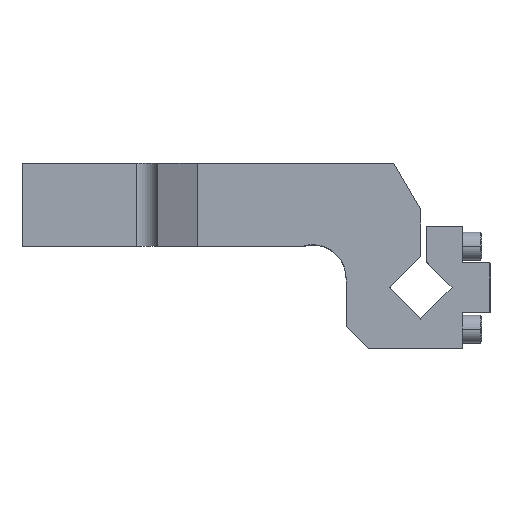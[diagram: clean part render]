
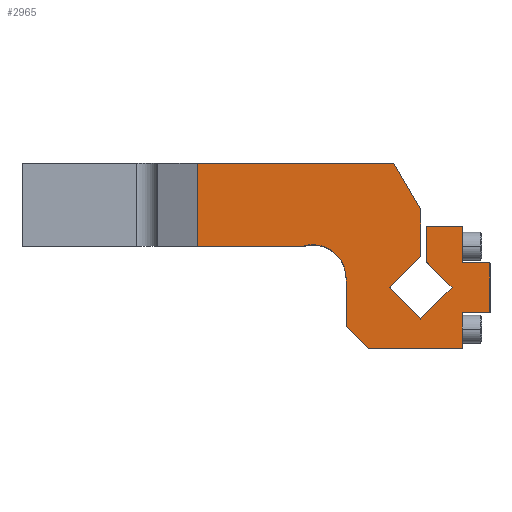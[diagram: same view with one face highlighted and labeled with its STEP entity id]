
A CAD part, top view. The second image highlights one B-rep face of the part: STEP entity #2965.
In plain terms, the highlighted planar face has unit normal (0, 0, 1).
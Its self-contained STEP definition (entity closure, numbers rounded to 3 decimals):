
#975=CARTESIAN_POINT('',(14.134,-17.729,2.0));
#976=VERTEX_POINT('',#975);
#983=CARTESIAN_POINT('',(14.134,-17.708,2.));
#984=VERTEX_POINT('',#983);
#985=CARTESIAN_POINT('',(14.134,-17.729,2.0));
#986=DIRECTION('',(0.0,1.0,0.));
#987=VECTOR('',#986,0.021);
#988=LINE('',#985,#987);
#989=EDGE_CURVE('',#976,#984,#988,.T.);
#1537=CARTESIAN_POINT('',(16.134,15.585,2.));
#1538=VERTEX_POINT('',#1537);
#1539=CARTESIAN_POINT('',(16.134,2.878,2.));
#1540=VERTEX_POINT('',#1539);
#1541=CARTESIAN_POINT('',(16.134,15.585,2.));
#1542=DIRECTION('',(0.0,-1.0,0.0));
#1543=VECTOR('',#1542,12.707);
#1544=LINE('',#1541,#1543);
#1545=EDGE_CURVE('',#1538,#1540,#1544,.T.);
#1596=CARTESIAN_POINT('',(25.427,-6.415,2.));
#1597=VERTEX_POINT('',#1596);
#1604=CARTESIAN_POINT('',(25.427,-6.415,2.));
#1605=DIRECTION('',(-0.707,0.707,0.0));
#1606=VECTOR('',#1605,13.142);
#1607=LINE('',#1604,#1606);
#1608=EDGE_CURVE('',#1597,#1540,#1607,.T.);
#1651=CARTESIAN_POINT('',(14.134,-17.708,2.));
#1652=DIRECTION('',(0.707,0.707,0.0));
#1653=VECTOR('',#1652,15.97);
#1654=LINE('',#1651,#1653);
#1655=EDGE_CURVE('',#984,#1597,#1654,.T.);
#1674=CARTESIAN_POINT('',(29.134,15.585,2.));
#1675=VERTEX_POINT('',#1674);
#1676=CARTESIAN_POINT('',(16.134,15.585,2.));
#1677=DIRECTION('',(1.0,0.0,0.0));
#1678=VECTOR('',#1677,13.);
#1679=LINE('',#1676,#1678);
#1680=EDGE_CURVE('',#1538,#1675,#1679,.T.);
#1704=CARTESIAN_POINT('',(29.134,2.585,2.));
#1705=VERTEX_POINT('',#1704);
#1706=CARTESIAN_POINT('',(29.134,15.585,2.));
#1707=DIRECTION('',(0.0,-1.0,0.0));
#1708=VECTOR('',#1707,13.);
#1709=LINE('',#1706,#1708);
#1710=EDGE_CURVE('',#1675,#1705,#1709,.T.);
#1739=CARTESIAN_POINT('',(39.134,2.585,2.));
#1740=VERTEX_POINT('',#1739);
#1741=CARTESIAN_POINT('',(29.134,2.585,2.));
#1742=DIRECTION('',(1.0,0.0,0.0));
#1743=VECTOR('',#1742,10.0);
#1744=LINE('',#1741,#1743);
#1745=EDGE_CURVE('',#1705,#1740,#1744,.T.);
#1770=CARTESIAN_POINT('',(39.134,-15.415,2.));
#1771=VERTEX_POINT('',#1770);
#1772=CARTESIAN_POINT('',(39.134,2.585,2.));
#1773=DIRECTION('',(0.0,-1.0,0.0));
#1774=VECTOR('',#1773,18.);
#1775=LINE('',#1772,#1774);
#1776=EDGE_CURVE('',#1740,#1771,#1775,.T.);
#1801=CARTESIAN_POINT('',(29.134,-15.415,2.));
#1802=VERTEX_POINT('',#1801);
#1803=CARTESIAN_POINT('',(39.134,-15.415,2.));
#1804=DIRECTION('',(-1.0,0.0,0.0));
#1805=VECTOR('',#1804,10.0);
#1806=LINE('',#1803,#1805);
#1807=EDGE_CURVE('',#1771,#1802,#1806,.T.);
#1832=CARTESIAN_POINT('',(29.134,-28.415,2.));
#1833=VERTEX_POINT('',#1832);
#1834=CARTESIAN_POINT('',(29.134,-15.415,2.));
#1835=DIRECTION('',(0.0,-1.0,0.0));
#1836=VECTOR('',#1835,13.);
#1837=LINE('',#1834,#1836);
#1838=EDGE_CURVE('',#1802,#1833,#1837,.T.);
#2861=CARTESIAN_POINT('',(-22.081,11.55,2.0));
#2862=DIRECTION('',(0.0,0.0,1.0));
#2863=DIRECTION('',(1.0,0.0,0.0));
#2864=AXIS2_PLACEMENT_3D('',#2861,#2862,#2863);
#2865=PLANE('',#2864);
#2866=CARTESIAN_POINT('',(-66.577,38.585,2.));
#2867=VERTEX_POINT('',#2866);
#2868=CARTESIAN_POINT('',(-66.577,8.585,2.));
#2869=VERTEX_POINT('',#2868);
#2870=CARTESIAN_POINT('',(-66.577,38.585,2.));
#2871=DIRECTION('',(0.0,-1.0,0.0));
#2872=VECTOR('',#2871,30.);
#2873=LINE('',#2870,#2872);
#2874=EDGE_CURVE('',#2867,#2869,#2873,.T.);
#2875=ORIENTED_EDGE('',*,*,#2874,.T.);
#2876=CARTESIAN_POINT('',(-28.294,8.585,2.0));
#2877=VERTEX_POINT('',#2876);
#2878=CARTESIAN_POINT('',(-28.294,8.585,2.0));
#2879=DIRECTION('',(-1.0,0.0,0.0));
#2880=VECTOR('',#2879,38.283);
#2881=LINE('',#2878,#2880);
#2882=EDGE_CURVE('',#2877,#2869,#2881,.T.);
#2883=ORIENTED_EDGE('',*,*,#2882,.F.);
#2884=CARTESIAN_POINT('',(-12.866,-2.915,2.0));
#2885=VERTEX_POINT('',#2884);
#2886=CARTESIAN_POINT('',(-24.866,-2.915,2.0));
#2887=DIRECTION('',(0.0,0.0,1.0));
#2888=DIRECTION('',(-1.0,0.0,0.0));
#2889=AXIS2_PLACEMENT_3D('',#2886,#2887,#2888);
#2890=CIRCLE('',#2889,12.);
#2891=EDGE_CURVE('',#2885,#2877,#2890,.T.);
#2892=ORIENTED_EDGE('',*,*,#2891,.F.);
#2893=CARTESIAN_POINT('',(-12.866,-20.415,2.0));
#2894=VERTEX_POINT('',#2893);
#2895=CARTESIAN_POINT('',(-12.866,-20.415,2.0));
#2896=DIRECTION('',(0.0,1.0,0.0));
#2897=VECTOR('',#2896,17.5);
#2898=LINE('',#2895,#2897);
#2899=EDGE_CURVE('',#2894,#2885,#2898,.T.);
#2900=ORIENTED_EDGE('',*,*,#2899,.F.);
#2901=CARTESIAN_POINT('',(-4.866,-28.415,2.0));
#2902=VERTEX_POINT('',#2901);
#2903=CARTESIAN_POINT('',(-4.866,-28.415,2.0));
#2904=DIRECTION('',(-0.707,0.707,0.0));
#2905=VECTOR('',#2904,11.314);
#2906=LINE('',#2903,#2905);
#2907=EDGE_CURVE('',#2902,#2894,#2906,.T.);
#2908=ORIENTED_EDGE('',*,*,#2907,.F.);
#2909=CARTESIAN_POINT('',(29.134,-28.415,2.));
#2910=DIRECTION('',(-1.0,0.0,0.0));
#2911=VECTOR('',#2910,34.0);
#2912=LINE('',#2909,#2911);
#2913=EDGE_CURVE('',#1833,#2902,#2912,.T.);
#2914=ORIENTED_EDGE('',*,*,#2913,.F.);
#2915=ORIENTED_EDGE('',*,*,#1838,.F.);
#2916=ORIENTED_EDGE('',*,*,#1807,.F.);
#2917=ORIENTED_EDGE('',*,*,#1776,.F.);
#2918=ORIENTED_EDGE('',*,*,#1745,.F.);
#2919=ORIENTED_EDGE('',*,*,#1710,.F.);
#2920=ORIENTED_EDGE('',*,*,#1680,.F.);
#2921=ORIENTED_EDGE('',*,*,#1545,.T.);
#2922=ORIENTED_EDGE('',*,*,#1608,.F.);
#2923=ORIENTED_EDGE('',*,*,#1655,.F.);
#2924=ORIENTED_EDGE('',*,*,#989,.F.);
#2925=CARTESIAN_POINT('',(2.82,-6.415,2.0));
#2926=VERTEX_POINT('',#2925);
#2927=CARTESIAN_POINT('',(2.82,-6.415,2.0));
#2928=DIRECTION('',(0.707,-0.707,0.0));
#2929=VECTOR('',#2928,16.);
#2930=LINE('',#2927,#2929);
#2931=EDGE_CURVE('',#2926,#976,#2930,.T.);
#2932=ORIENTED_EDGE('',*,*,#2931,.F.);
#2933=CARTESIAN_POINT('',(14.134,4.899,2.0));
#2934=VERTEX_POINT('',#2933);
#2935=CARTESIAN_POINT('',(14.134,4.899,2.0));
#2936=DIRECTION('',(-0.707,-0.707,0.0));
#2937=VECTOR('',#2936,16.);
#2938=LINE('',#2935,#2937);
#2939=EDGE_CURVE('',#2934,#2926,#2938,.T.);
#2940=ORIENTED_EDGE('',*,*,#2939,.F.);
#2941=CARTESIAN_POINT('',(14.134,21.683,2.0));
#2942=VERTEX_POINT('',#2941);
#2943=CARTESIAN_POINT('',(14.134,21.683,2.0));
#2944=DIRECTION('',(0.0,-1.0,0.0));
#2945=VECTOR('',#2944,16.784);
#2946=LINE('',#2943,#2945);
#2947=EDGE_CURVE('',#2942,#2934,#2946,.T.);
#2948=ORIENTED_EDGE('',*,*,#2947,.F.);
#2949=CARTESIAN_POINT('',(4.376,38.585,2.0));
#2950=VERTEX_POINT('',#2949);
#2951=CARTESIAN_POINT('',(4.376,38.585,2.0));
#2952=DIRECTION('',(0.5,-0.866,0.0));
#2953=VECTOR('',#2952,19.517);
#2954=LINE('',#2951,#2953);
#2955=EDGE_CURVE('',#2950,#2942,#2954,.T.);
#2956=ORIENTED_EDGE('',*,*,#2955,.F.);
#2957=CARTESIAN_POINT('',(-66.577,38.585,2.));
#2958=DIRECTION('',(1.0,0.0,0.0));
#2959=VECTOR('',#2958,70.953);
#2960=LINE('',#2957,#2959);
#2961=EDGE_CURVE('',#2867,#2950,#2960,.T.);
#2962=ORIENTED_EDGE('',*,*,#2961,.F.);
#2963=EDGE_LOOP('',(#2875,#2883,#2892,#2900,#2908,#2914,#2915,#2916,#2917,#2918,#2919,#2920,#2921,#2922,#2923,#2924,#2932,#2940,#2948,#2956,#2962));
#2964=FACE_OUTER_BOUND('',#2963,.T.);
#2965=ADVANCED_FACE('',(#2964),#2865,.T.);
